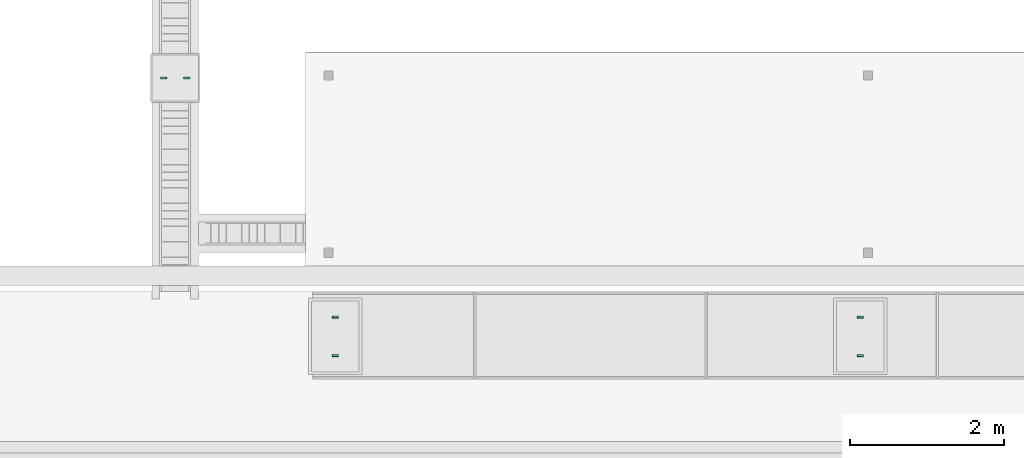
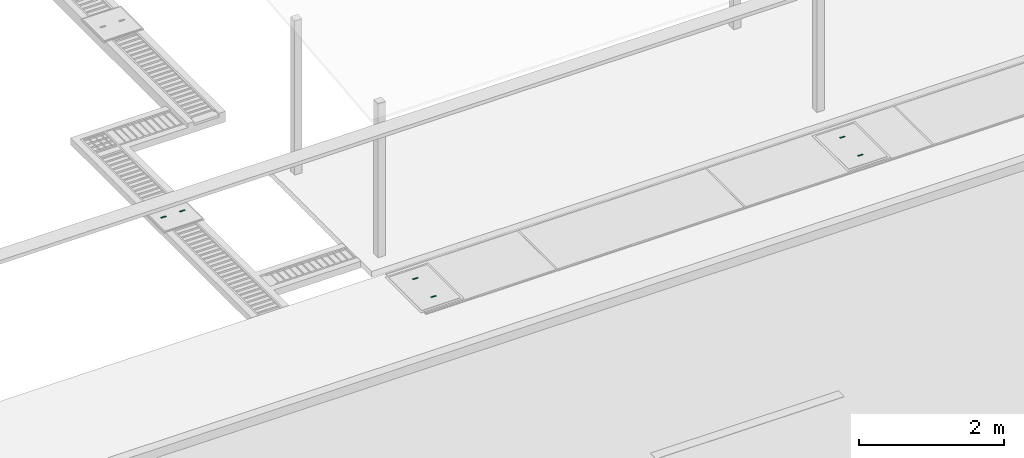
# One storey, part 63 of 90: 6 distribution chamber elements.
"""IFC2X3 building model written with IfcOpenShell, lengths in metres."""

import ifcopenshell
import ifcopenshell.guid

model = None  # the IFC model being written
_history = None  # IfcOwnerHistory: only IFC2X3 demands one
_inside = {}  # id of a spatial element -> (the spatial element, [elements in it])
_under = {}  # id of a project, library or spatial element -> (it, [spatial elements below it])
_declared = {}  # id of a project -> (the project, [libraries it declares])
_typed = {}  # id of a type object -> (the type object, [elements of that type])
_made_of = {}  # id of a material, layer set ... -> (it, [elements and type objects made of it])


def new_model(schema):
    """Start an empty IFC model of exactly this schema.

    Asked for "IFC4X3", IfcOpenShell would pick the latest addendum, in which some entities
    have other attributes; the version numbers below select the first issue.
    IFC2X3 requires an IfcOwnerHistory on every rooted entity: one is made here for all.
    """
    global model, _history
    if schema == "IFC4X3":
        model = ifcopenshell.file(schema_version=(4, 3, 0, 0))
    else:
        model = ifcopenshell.file(schema=schema)
    _inside.clear()
    _under.clear()
    _declared.clear()
    _typed.clear()
    _made_of.clear()
    _history = None
    if model.schema == "IFC2X3":
        org = make("IfcOrganization", Name="unknown")
        user = make(
            "IfcPersonAndOrganization",
            ThePerson=make("IfcPerson", FamilyName="unknown"),
            TheOrganization=org,
        )
        app = make(
            "IfcApplication",
            ApplicationDeveloper=org,
            Version="unknown",
            ApplicationFullName="unknown",
            ApplicationIdentifier="unknown",
        )
        _history = make(
            "IfcOwnerHistory",
            OwningUser=user,
            OwningApplication=app,
            ChangeAction="ADDED",
            CreationDate=0,
        )
    return model


def make(cls, **values):
    """One entity of the class cls with the attributes given. An attribute that is None is left unset."""
    return model.create_entity(
        cls, **{name: value for name, value in values.items() if value is not None}
    )


def rooted(cls, **values):
    """An entity with a GlobalId (a new one), such as an element, a storey or a relation."""
    return make(cls, GlobalId=ifcopenshell.guid.new(), OwnerHistory=_history, **values)


def si_unit(unit_type, name, prefix=None):
    """IfcSIUnit, for example si_unit("LENGTHUNIT", "METRE", prefix="MILLI")."""
    return make("IfcSIUnit", UnitType=unit_type, Prefix=prefix, Name=name)


def assignment(units):
    """IfcUnitAssignment: the units of a project."""
    return None if units is None else make("IfcUnitAssignment", Units=units)


def point(xyz):
    """IfcCartesianPoint."""
    return None if xyz is None else make("IfcCartesianPoint", Coordinates=xyz)


def direction(xyz):
    """IfcDirection."""
    return None if xyz is None else make("IfcDirection", DirectionRatios=xyz)


def frame(location, z_axis=None, x_axis=None):
    """IfcAxis2Placement3D, a coordinate frame: its origin and axes. An axis left out is left unset."""
    return make(
        "IfcAxis2Placement3D",
        Location=point(location),
        Axis=direction(z_axis),
        RefDirection=direction(x_axis),
    )


def origin():
    """The frame at (0, 0, 0) with its axes left unset."""
    return frame((0.0, 0.0, 0.0))


def origin_with_axes():
    """The frame at (0, 0, 0) with the z axis (0, 0, 1) and the x axis (1, 0, 0) written out."""
    return frame((0.0, 0.0, 0.0), z_axis=(0.0, 0.0, 1.0), x_axis=(1.0, 0.0, 0.0))


def place(relative_to, where):
    """IfcLocalPlacement: puts the frame where relative to a parent placement (None: the world)."""
    return make(
        "IfcLocalPlacement", PlacementRelTo=relative_to, RelativePlacement=where
    )


def context(
    kind, dimensions, precision=None, world=None, true_north=None, identifier=None
):
    """IfcGeometricRepresentationContext, for example the 3D "Model" context."""
    return make(
        "IfcGeometricRepresentationContext",
        ContextIdentifier=identifier,
        ContextType=kind,
        CoordinateSpaceDimension=dimensions,
        Precision=precision,
        WorldCoordinateSystem=world,
        TrueNorth=true_north,
    )


def subcontext(parent, identifier, kind, view, scale=None):
    """IfcGeometricRepresentationSubContext, for example "Body" below "Model"."""
    return make(
        "IfcGeometricRepresentationSubContext",
        ContextIdentifier=identifier,
        ContextType=kind,
        ParentContext=parent,
        TargetScale=scale,
        TargetView=view,
    )


def project(units=None, contexts=None):
    """IfcProject with its units and contexts."""
    return rooted(
        "IfcProject",
        Name="project",
        RepresentationContexts=contexts,
        UnitsInContext=assignment(units),
    )


def spatial(cls, under=None, at=None, **own):
    """A site, building, storey or space (cls), placed at a placement, below another one or the project."""
    s = rooted(cls, ObjectPlacement=at, **own)
    if under is not None:
        _under.setdefault(under.id(), (under, []))[1].append(s)
    return s


def faces_of(points, faces, orient=None, outer=None):
    """IfcFace entities. A face is a list of loops; a loop is a list of indices into points, from 0.

    orient and outer hold one flag for each loop. By default every Orientation is true, the
    first loop of a face is its IfcFaceOuterBound and the others are IfcFaceBound.
    """
    made = []
    for i, loops in enumerate(faces):
        bounds = []
        for j, loop in enumerate(loops):
            is_outer = j == 0 if outer is None else outer[i][j]
            bounds.append(
                make(
                    "IfcFaceOuterBound" if is_outer else "IfcFaceBound",
                    Bound=make("IfcPolyLoop", Polygon=[points[k] for k in loop]),
                    Orientation=True if orient is None else orient[i][j],
                )
            )
        made.append(make("IfcFace", Bounds=bounds))
    return made


def faceted_brep(points, faces, orient=None, outer=None, voids=None):
    """IfcFacetedBrep: a solid bounded by flat faces; with voids (closed shells), ...WithVoids."""
    shared = [point(p) for p in points]
    hull = make("IfcClosedShell", CfsFaces=faces_of(shared, faces, orient, outer))
    if voids is None:
        return make("IfcFacetedBrep", Outer=hull)
    return make(
        "IfcFacetedBrepWithVoids",
        Outer=hull,
        Voids=[
            make(cls, CfsFaces=faces_of(shared, fs, o, b)) for cls, fs, o, b in voids
        ],
    )


def shape(context_of_items, identifier, shape_type, items):
    """IfcShapeRepresentation: the items that make up one representation, for example the "Body"."""
    return make(
        "IfcShapeRepresentation",
        ContextOfItems=context_of_items,
        RepresentationIdentifier=identifier,
        RepresentationType=shape_type,
        Items=items,
    )


def made_of(thing, what):
    """Note that an element or type object is made of a material, layer set ...; save() writes the relation."""
    if what is not None:
        _made_of.setdefault(what.id(), (what, []))[1].append(thing)
    return thing


def element(
    cls,
    number,
    at=None,
    inside=None,
    cuts=None,
    type_object=None,
    material=None,
    context=None,
    identifier="Body",
    shape_type=None,
    held_by="IfcProductDefinitionShape",
    body=None,
    shapes=None,
    **own,
):
    """One element of the class cls, such as IfcWall. Its Tag is "e" and its number.

    at: its placement. inside: the storey or other place that contains it. cuts: it is an
    opening in that element (IfcRelVoidsElement). A single representation is given by context,
    identifier, shape_type and body (its items); several are given by shapes. held_by: the class
    of the entity that holds the representations. save() writes the other relations.
    """
    e = rooted(cls, Tag="e%d" % number, ObjectPlacement=at, **own)
    if body is not None:
        shapes = [shape(context, identifier, shape_type, body)]
    if shapes is not None:
        e.Representation = make(held_by, Representations=shapes)
    if inside is not None:
        _inside.setdefault(inside.id(), (inside, []))[1].append(e)
    if cuts is not None:
        rooted(
            "IfcRelVoidsElement", RelatingBuildingElement=cuts, RelatedOpeningElement=e
        )
    if type_object is not None:
        _typed.setdefault(type_object.id(), (type_object, []))[1].append(e)
    return made_of(e, material)


def aggregate(whole, parts):
    """IfcRelAggregates: a whole, such as a stair, and the parts it consists of."""
    return rooted("IfcRelAggregates", RelatingObject=whole, RelatedObjects=parts)


def save(model, path):
    """Write the relations noted so far, then the file.

    IfcRelAggregates (storeys below a building ...), IfcRelContainedInSpatialStructure (elements
    in a storey), IfcRelDefinesByType, IfcRelAssociatesMaterial and IfcRelDeclares: one each for
    every whole, place, type object, material and project.
    """
    for whole, parts in _under.values():
        aggregate(whole, parts)
    for where, things in _inside.values():
        rooted(
            "IfcRelContainedInSpatialStructure",
            RelatedElements=things,
            RelatingStructure=where,
        )
    for kind, things in _typed.values():
        rooted("IfcRelDefinesByType", RelatedObjects=things, RelatingType=kind)
    for what, things in _made_of.values():
        rooted("IfcRelAssociatesMaterial", RelatedObjects=things, RelatingMaterial=what)
    for by, libraries in _declared.values():
        rooted("IfcRelDeclares", RelatingContext=by, RelatedDefinitions=libraries)
    model.write(path)


model = new_model("IFC2X3")

# Units and contexts
model_context = context("Model", 3, precision=1e-05, world=origin_with_axes())
body_context = subcontext(model_context, "Body", "Model", "MODEL_VIEW")
ifc_project = project(units=[si_unit("LENGTHUNIT", "METRE"), si_unit("AREAUNIT", "SQUARE_METRE"), si_unit("VOLUMEUNIT", "CUBIC_METRE"), si_unit("PLANEANGLEUNIT", "RADIAN")], contexts=[model_context])

# Site, building, storey
site_placement = place(None, origin_with_axes())
site = spatial("IfcSite", under=ifc_project, at=site_placement, Name="Predio Los Mangos - Morales, San Martín", CompositionType="ELEMENT")
building_placement = place(site_placement, origin())
building = spatial("IfcBuilding", under=site, at=building_placement, Name="Hogar de Refugio Temporal", CompositionType="ELEMENT")
storey_placement = place(building_placement, origin())
storey = spatial("IfcBuildingStorey", under=building, at=storey_placement, Name="NIVEL 1 (NPT +0.00)", CompositionType="ELEMENT", Elevation=0.0)

# Distribution chamber elements
distribution_chamber_element_1_placement = place(storey_placement, origin())
element("IfcDistributionChamberElement", 1, at=distribution_chamber_element_1_placement, inside=storey, Name="tapa_insp_asa", ObjectType="Tapa de inspección", context=body_context, shape_type="Brep", body=[
    faceted_brep([(10.923, 20.555, 0.104), (10.923, 20.579, 0.104), (11.003, 20.579, 0.104), (11.003, 20.555, 0.104), (10.923, 20.555, 0.108), (11.003, 20.555, 0.108), (11.003, 20.579, 0.108), (10.923, 20.579, 0.108)], [[[0, 1, 2, 3]], [[4, 5, 6, 7]], [[0, 3, 5, 4]], [[3, 2, 6, 5]], [[2, 1, 7, 6]], [[1, 0, 4, 7]]]),
])
distribution_chamber_element_2_placement = place(storey_placement, origin())
element("IfcDistributionChamberElement", 2, at=distribution_chamber_element_2_placement, inside=storey, Name="tapa_insp_asa", ObjectType="Tapa de inspección", context=body_context, shape_type="Brep", body=[
    faceted_brep([(11.223, 20.555, 0.104), (11.223, 20.579, 0.104), (11.303, 20.579, 0.104), (11.303, 20.555, 0.104), (11.223, 20.555, 0.108), (11.303, 20.555, 0.108), (11.303, 20.579, 0.108), (11.223, 20.579, 0.108)], [[[0, 1, 2, 3]], [[4, 5, 6, 7]], [[0, 3, 5, 4]], [[3, 2, 6, 5]], [[2, 1, 7, 6]], [[1, 0, 4, 7]]]),
])
distribution_chamber_element_3_placement = place(storey_placement, origin())
element("IfcDistributionChamberElement", 3, at=distribution_chamber_element_3_placement, inside=storey, Name="tapa_asa", ObjectType="Tapa ciega de registro del colector", context=body_context, shape_type="Brep", body=[
    faceted_brep([(19.96, 16.953, 0.168), (19.96, 16.977, 0.168), (20.04, 16.977, 0.168), (20.04, 16.953, 0.168), (19.96, 16.953, 0.172), (20.04, 16.953, 0.172), (20.04, 16.977, 0.172), (19.96, 16.977, 0.172)], [[[0, 1, 2, 3]], [[4, 5, 6, 7]], [[0, 3, 5, 4]], [[3, 2, 6, 5]], [[2, 1, 7, 6]], [[1, 0, 4, 7]]]),
])
distribution_chamber_element_4_placement = place(storey_placement, origin())
element("IfcDistributionChamberElement", 4, at=distribution_chamber_element_4_placement, inside=storey, Name="tapa_asa", ObjectType="Tapa ciega de registro del colector", context=body_context, shape_type="Brep", body=[
    faceted_brep([(19.96, 17.453, 0.168), (19.96, 17.477, 0.168), (20.04, 17.477, 0.168), (20.04, 17.453, 0.168), (19.96, 17.453, 0.172), (20.04, 17.453, 0.172), (20.04, 17.477, 0.172), (19.96, 17.477, 0.172)], [[[0, 1, 2, 3]], [[4, 5, 6, 7]], [[0, 3, 5, 4]], [[3, 2, 6, 5]], [[2, 1, 7, 6]], [[1, 0, 4, 7]]]),
])
distribution_chamber_element_5_placement = place(storey_placement, origin())
element("IfcDistributionChamberElement", 5, at=distribution_chamber_element_5_placement, inside=storey, Name="tapa_asa", ObjectType="Tapa ciega de registro del colector", context=body_context, shape_type="Brep", body=[
    faceted_brep([(13.15, 16.953, 0.168), (13.15, 16.977, 0.168), (13.23, 16.977, 0.168), (13.23, 16.953, 0.168), (13.15, 16.953, 0.172), (13.23, 16.953, 0.172), (13.23, 16.977, 0.172), (13.15, 16.977, 0.172)], [[[0, 1, 2, 3]], [[4, 5, 6, 7]], [[0, 3, 5, 4]], [[3, 2, 6, 5]], [[2, 1, 7, 6]], [[1, 0, 4, 7]]]),
])
distribution_chamber_element_6_placement = place(storey_placement, origin())
element("IfcDistributionChamberElement", 6, at=distribution_chamber_element_6_placement, inside=storey, Name="tapa_asa", ObjectType="Tapa ciega de registro del colector", context=body_context, shape_type="Brep", body=[
    faceted_brep([(13.15, 17.453, 0.168), (13.15, 17.477, 0.168), (13.23, 17.477, 0.168), (13.23, 17.453, 0.168), (13.15, 17.453, 0.172), (13.23, 17.453, 0.172), (13.23, 17.477, 0.172), (13.15, 17.477, 0.172)], [[[0, 1, 2, 3]], [[4, 5, 6, 7]], [[0, 3, 5, 4]], [[3, 2, 6, 5]], [[2, 1, 7, 6]], [[1, 0, 4, 7]]]),
])

save(model, "model.ifc")
